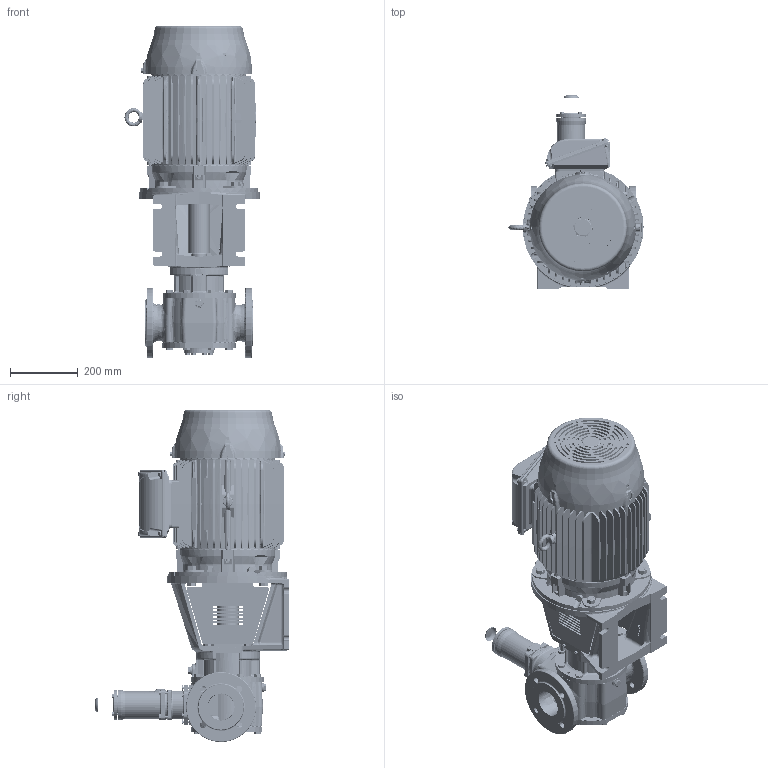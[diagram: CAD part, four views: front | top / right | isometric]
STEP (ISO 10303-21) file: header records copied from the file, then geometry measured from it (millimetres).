
FILE_DESCRIPTION(/* description */ (''),/* implementation_level */ '2;1');
FILE_NAME(/* name */ 'C:\V\JPP\Designs\GEAR PUMPS\PRODUCT ENGINEERING\EUROPE\TG BLOC\TG BLOC_58-80_R3_O_RV1-_160M-STEP.stp',/* time_stamp */ '2021-03-19T11:37:55+01:00',/* author */ ('A77THR'),/* organization */ (''),/* preprocessor_version */ 'ST-DEVELOPER v18.1',/* originating_system */ 'Autodesk Inventor 2020',/* authorisation */ '');
FILE_SCHEMA (('AUTOMOTIVE_DESIGN { 1 0 10303 214 3 1 1 }'));
Length unit declared in the file: millimetre
Products named in the file (1): TG BLOC_58-80_R3_O_RV1-_160M
Bounding box: 397.99 x 571 x 978 mm (x, y, z)
Volume: 50233075.9 mm3; surface area: 2546302.3 mm2
Topology: 1 solids, 1 shells, 4915 faces, 12791 edges, 8090 vertices
Faces by surface type: plane 2048, cylinder 1105, bspline 904, cone 676, torus 132, sphere 50
Full cylindrical faces by diameter (mm): 4 x1, 4.5 x8, 4.917 x8, 5 x4, 5.459 x4, 6 x4, 6.647 x1, 6.8 x2, 7 x8, 7.323 x18, 7.5 x3, 8 x27, 8.7 x4, 9 x18, 9.4 x1, 10 x8, 10.106 x7, 10.2 x2, 11.053 x4, 11.4 x18, 11.445 x2, 11.6 x7, 12 x4, 12.5 x3, 13 x5, 13.157 x2, 13.2 x2, 14 x8, 15.011 x2, 16 x1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
Entity records: 194210 total; most frequent: CARTESIAN_POINT 76001, ORIENTED_EDGE 25392, DIRECTION 21981, EDGE_CURVE 12696, AXIS2_PLACEMENT_3D 8487, VERTEX_POINT 8082, EDGE_LOOP 5370, LINE 5007
